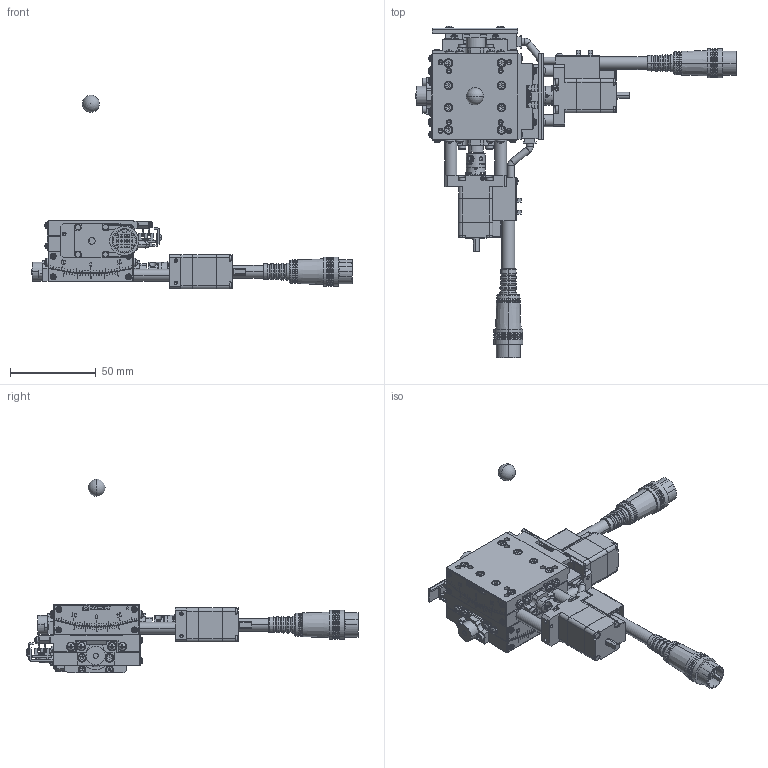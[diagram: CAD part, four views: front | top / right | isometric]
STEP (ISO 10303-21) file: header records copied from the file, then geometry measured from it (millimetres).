
FILE_DESCRIPTION (( 'STEP AP203' ), '1' );
FILE_NAME ('SA05A-R2L01.STEP', '2019-12-03T10:32:45', ( '' ), ( '' ), 'SwSTEP 2.0', 'SolidWorks 2018', '' );
FILE_SCHEMA (( 'CONFIG_CONTROL_DESIGN' ));
Length unit declared in the file: millimetre
Products named in the file (12): second table-Part-1; rotation center; second table-Part-3; base-Part-1; second table-Part-2; table; base-Part-2; table-Part-1; base; second table; base-Part-3; SA05A-R2L01
Assembly tree (11 placements, depth 3):
  SA05A-R2L01
    base
      base-Part-1
      base-Part-2
      base-Part-3
    table
      table-Part-1
    second table
      second table-Part-1
      second table-Part-2
      second table-Part-3
    rotation center
Bounding box: 187 x 193.68 x 113 mm (x, y, z)
Volume: 153007.1 mm3; surface area: 77951.7 mm2
Topology: 8 solids, 16 shells, 5102 faces, 12789 edges, 7904 vertices
Faces by surface type: plane 3163, cylinder 1117, cone 444, torus 268, sphere 98, bspline 12
Entity records: 156366 total; most frequent: CARTESIAN_POINT 31463, DIRECTION 26721, ORIENTED_EDGE 25208, EDGE_CURVE 12604, AXIS2_PLACEMENT_3D 9443, VERTEX_POINT 7893, VECTOR 7835, LINE 7835
